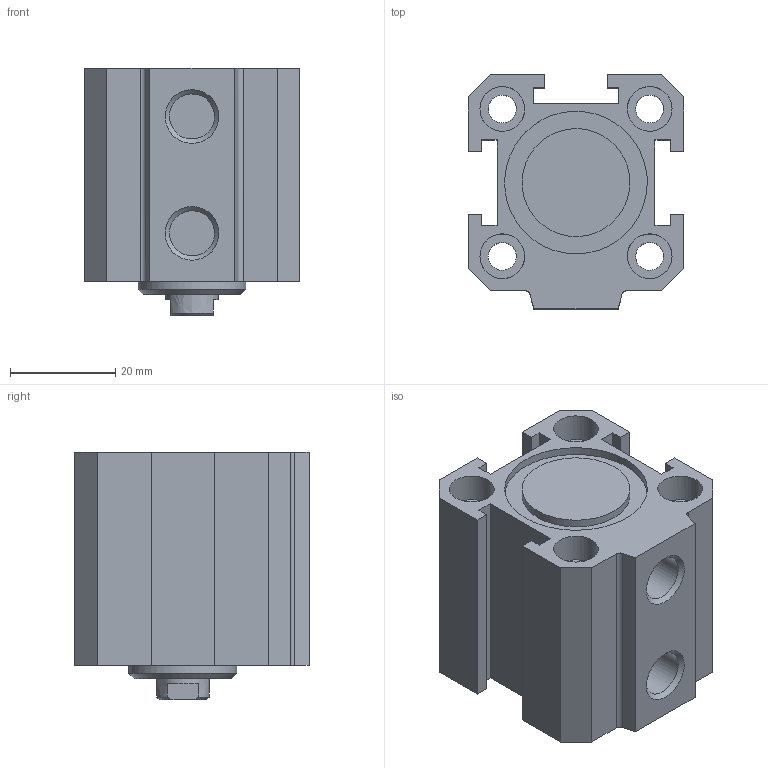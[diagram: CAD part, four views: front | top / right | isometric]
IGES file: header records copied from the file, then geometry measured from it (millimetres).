
Global section: file name: 1511_25_0005; native system: Autodesk Inventor 2014; preprocessor: unknown; author: A. Manieri; date: 20160824.111819; units: millimetre
Bounding box: 41 x 44.5 x 47 mm (x, y, z)
Volume: 51401.4 mm3; surface area: 21126 mm2
Topology: 2 solids, 2 shells, 93 faces, 241 edges, 170 vertices
Faces by surface type: bspline 93
